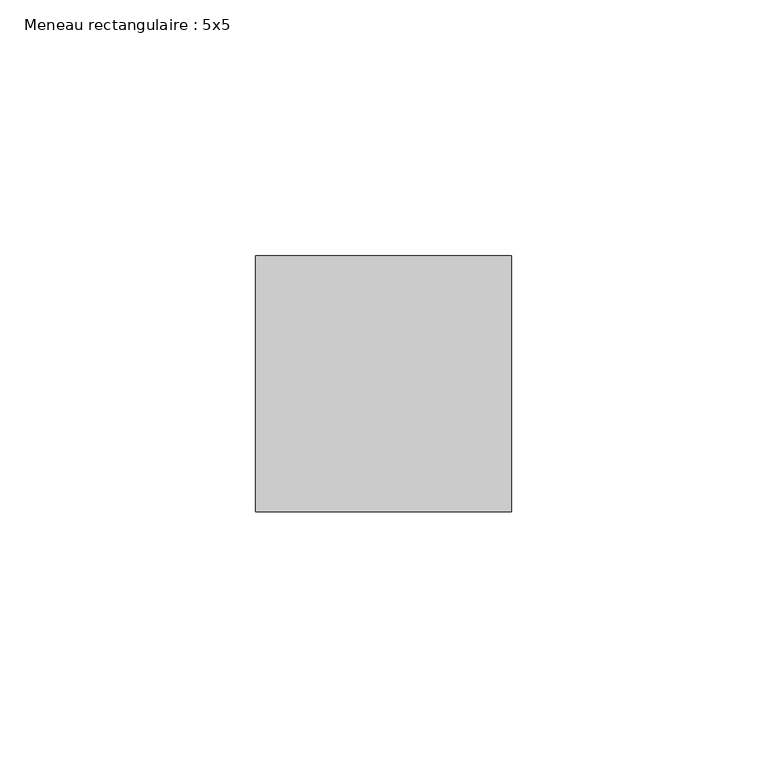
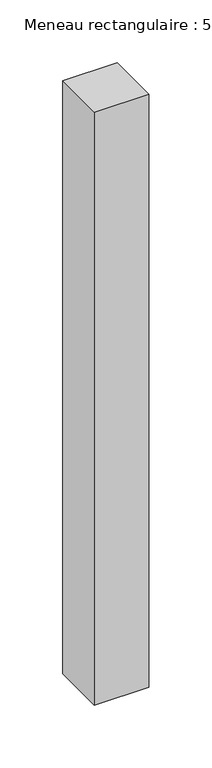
"""IFC4 building model written with IfcOpenShell, lengths in millimetres: member geometry, Meneau rectangulaire : 5x5."""

from ifc_helpers import new_model, si_unit, frame, origin, place, context, project, spatial, polyline, outline, extrude, source, transform, mapped, element, save


def meneau_rectangulaire_5x5_331809cc(model_context):
    return source(origin(), model_context, "Body", "SweptSolid", [
        extrude(outline(polyline([(25.0, 25.0), (25.0, -25.0), (-25.0, -25.0), (-25.0, 25.0), (25.0, 25.0)])), frame((0.0, 0.0, -575.0), z_axis=(0.0, 0.0, 1.0), x_axis=(1.0, 0.0, 0.0)), (0.0, 0.0, 1.0), 575.0),
    ])


if __name__ == "__main__":
    model = new_model("IFC4")
    model_context = context("Model", 3, world=origin())
    ifc_project = project(units=[si_unit("LENGTHUNIT", "METRE", prefix="MILLI")], contexts=[model_context])
    site = spatial("IfcSite", under=ifc_project)
    building = spatial("IfcBuilding", under=site)
    placement = place(None, origin())
    meneau_rectangulaire_5x5_shape = meneau_rectangulaire_5x5_331809cc(model_context)
    element("IfcMember", 1, ObjectType="Meneau rectangulaire : 5x5", at=placement, inside=building, context=model_context, shape_type="MappedRepresentation", body=[
        mapped(meneau_rectangulaire_5x5_shape, transform((0.0, 0.0, 0.0), x_axis=(1.0, 0.0, 0.0), y_axis=(0.0, 1.0, 0.0), z_axis=(0.0, 0.0, 1.0))),
    ])
    save(model, "model.ifc")
